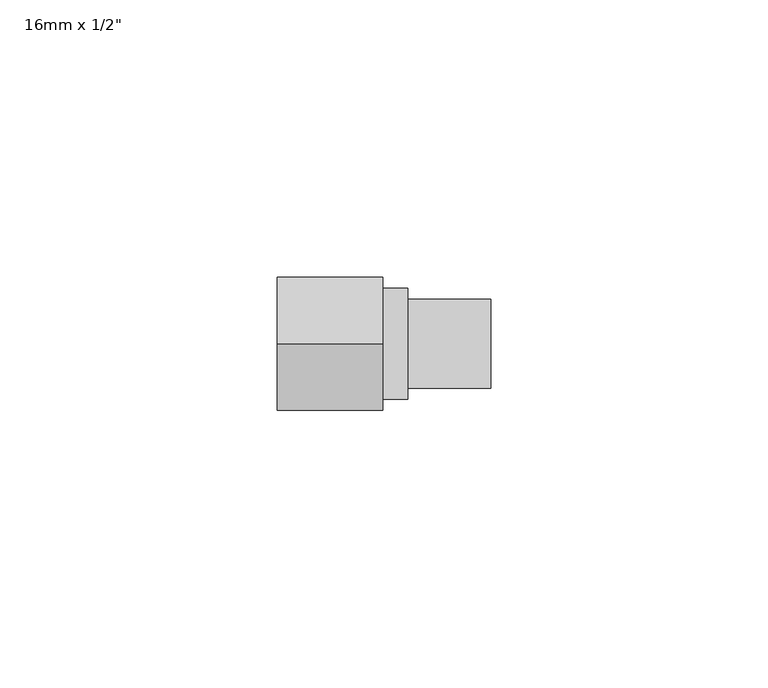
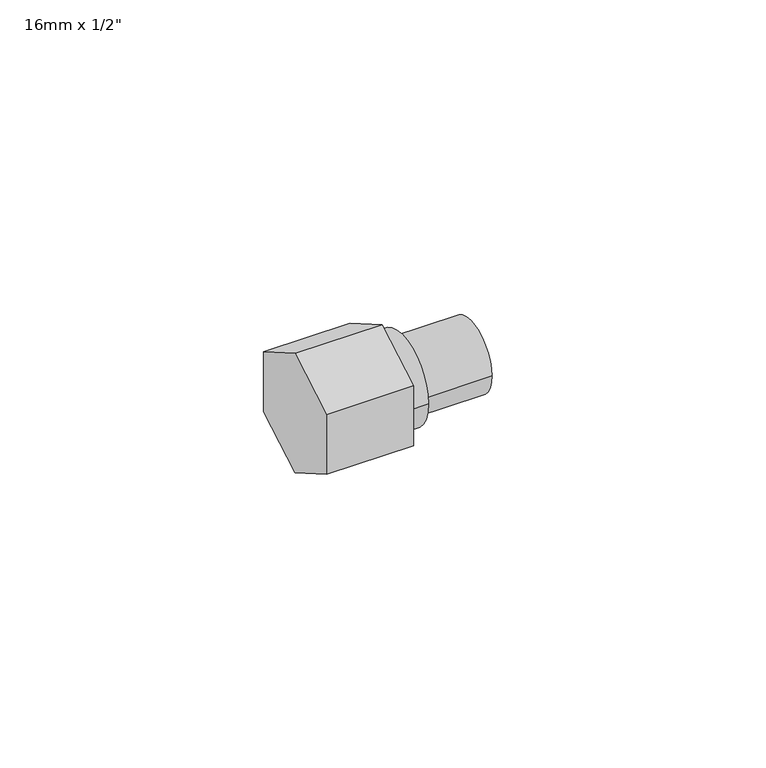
"""IFC4 building model written with IfcOpenShell, lengths in millimetres: pipe fitting geometry."""

from ifc_helpers import new_model, si_unit, point, frame, origin, origin_2d, place, context, project, spatial, polyline, circle_curve, trimmed, segment, composite_curve, outline, extrude, source, transform, mapped, element, save


def pipe_fitting_ef30b169(model_context):
    return source(origin(), model_context, "Body", "SweptSolid", [
        extrude(outline(composite_curve([segment(trimmed(circle_curve(origin_2d(), 10.0), [point((10.0, 0.0))], [point((-10.0, 0.0))], False, "CARTESIAN"), True, "CONTINUOUS"), segment(trimmed(circle_curve(origin_2d(), 10.0), [point((-10.0, 0.0))], [point((10.0, 0.0))], False, "CARTESIAN"), True, "CONTINUOUS")], self_intersect=False)), frame((19.0, 0.0, 0.0), z_axis=(1.0, 0.0, 0.0), x_axis=(0.0, 1.0, 0.0)), (0.0, 0.0, 1.0), 4.5),
        extrude(outline(composite_curve([segment(trimmed(circle_curve(origin_2d(), 8.0), [point((8.0, 0.0))], [point((-8.0, 0.0))], False, "CARTESIAN"), True, "CONTINUOUS"), segment(trimmed(circle_curve(origin_2d(), 8.0), [point((-8.0, 0.0))], [point((8.0, 0.0))], False, "CARTESIAN"), True, "CONTINUOUS")], self_intersect=False)), frame((23.5, 0.0, 0.0), z_axis=(1.0, 0.0, 0.0), x_axis=(0.0, 1.0, 0.0)), (0.0, 0.0, 1.0), 15.0),
        extrude(outline(polyline([(0.0, 13.8564065), (12.0, 6.9282032), (12.0, -6.9282032), (0.0, -13.8564065), (-12.0, -6.9282032), (-12.0, 6.9282032), (0.0, 13.8564065)])), frame((0.0, 0.0, 0.0), z_axis=(1.0, 0.0, 0.0), x_axis=(0.0, 1.0, 0.0)), (0.0, 0.0, 1.0), 19.0),
    ])


if __name__ == "__main__":
    model = new_model("IFC4")
    model_context = context("Model", 3, world=origin())
    ifc_project = project(units=[si_unit("LENGTHUNIT", "METRE", prefix="MILLI")], contexts=[model_context])
    site = spatial("IfcSite", under=ifc_project)
    building = spatial("IfcBuilding", under=site)
    placement = place(None, origin())
    pipe_fitting_shape = pipe_fitting_ef30b169(model_context)
    element("IfcPipeFitting", 1, ObjectType="PipeFitting_HTA_CPVC_TapConnectorsWithBrassNuts : 16mm x 1/2\"", at=placement, inside=building, context=model_context, shape_type="MappedRepresentation", body=[
        mapped(pipe_fitting_shape, transform((0.0, 0.0, 0.0), x_axis=(1.0, 0.0, 0.0), y_axis=(0.0, 1.0, 0.0), z_axis=(0.0, 0.0, 1.0))),
    ])
    save(model, "model.ifc")
